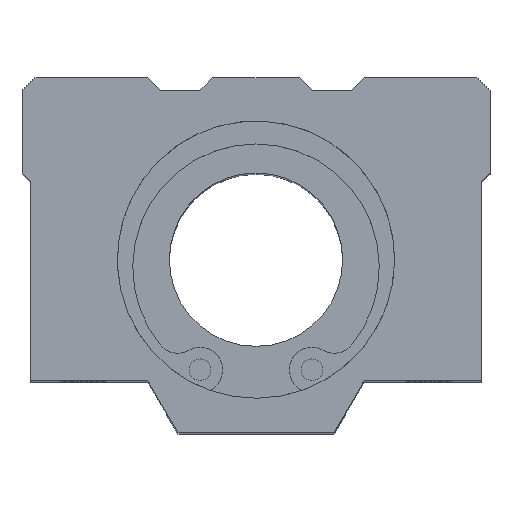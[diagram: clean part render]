
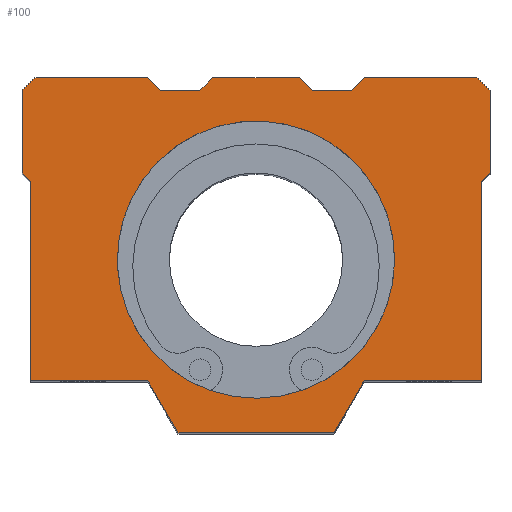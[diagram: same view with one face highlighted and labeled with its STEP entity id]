
A CAD part, top view. The second image highlights one B-rep face of the part: STEP entity #100.
In plain terms, the highlighted planar face has unit normal (0, 0, 1).
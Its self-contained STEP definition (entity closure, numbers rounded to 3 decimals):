
#100=ADVANCED_FACE('',(#205,#206),#207,.T.);
#205=FACE_OUTER_BOUND('',#366,.T.);
#206=FACE_BOUND('',#367,.T.);
#207=PLANE('',#368);
#366=EDGE_LOOP('',(#661,#662,#663,#664,#665,#666,#667,#668,#669,#670,#671,#672,#673,#674,#675,#676,#677,#678,#679,#680,#681,#682));
#367=EDGE_LOOP('',(#683));
#368=AXIS2_PLACEMENT_3D('',#684,#685,#686);
#661=ORIENTED_EDGE('',*,*,#1043,.T.);
#662=ORIENTED_EDGE('',*,*,#1044,.T.);
#663=ORIENTED_EDGE('',*,*,#1045,.T.);
#664=ORIENTED_EDGE('',*,*,#1046,.T.);
#665=ORIENTED_EDGE('',*,*,#1047,.T.);
#666=ORIENTED_EDGE('',*,*,#1048,.T.);
#667=ORIENTED_EDGE('',*,*,#1049,.T.);
#668=ORIENTED_EDGE('',*,*,#1050,.T.);
#669=ORIENTED_EDGE('',*,*,#1051,.T.);
#670=ORIENTED_EDGE('',*,*,#1052,.T.);
#671=ORIENTED_EDGE('',*,*,#1053,.T.);
#672=ORIENTED_EDGE('',*,*,#1054,.T.);
#673=ORIENTED_EDGE('',*,*,#1055,.T.);
#674=ORIENTED_EDGE('',*,*,#1056,.T.);
#675=ORIENTED_EDGE('',*,*,#1057,.T.);
#676=ORIENTED_EDGE('',*,*,#1058,.T.);
#677=ORIENTED_EDGE('',*,*,#1059,.T.);
#678=ORIENTED_EDGE('',*,*,#1060,.T.);
#679=ORIENTED_EDGE('',*,*,#1061,.T.);
#680=ORIENTED_EDGE('',*,*,#1062,.T.);
#681=ORIENTED_EDGE('',*,*,#1063,.T.);
#682=ORIENTED_EDGE('',*,*,#1064,.T.);
#683=ORIENTED_EDGE('',*,*,#1020,.T.);
#684=CARTESIAN_POINT('',(-19.0,27.5,48.0));
#685=DIRECTION('',(0.0,-0.0,1.0));
#686=DIRECTION('',(0.0,1.0,0.0));
#1020=EDGE_CURVE('',#1219,#1219,#1220,.F.);
#1043=EDGE_CURVE('',#1265,#1266,#1267,.T.);
#1044=EDGE_CURVE('',#1266,#1268,#1269,.T.);
#1045=EDGE_CURVE('',#1268,#1270,#1271,.T.);
#1046=EDGE_CURVE('',#1270,#1272,#1273,.T.);
#1047=EDGE_CURVE('',#1272,#1274,#1275,.T.);
#1048=EDGE_CURVE('',#1274,#1276,#1277,.T.);
#1049=EDGE_CURVE('',#1276,#1278,#1279,.T.);
#1050=EDGE_CURVE('',#1278,#1280,#1281,.T.);
#1051=EDGE_CURVE('',#1280,#1282,#1283,.T.);
#1052=EDGE_CURVE('',#1282,#1284,#1285,.T.);
#1053=EDGE_CURVE('',#1284,#1286,#1287,.T.);
#1054=EDGE_CURVE('',#1286,#1288,#1289,.T.);
#1055=EDGE_CURVE('',#1288,#1290,#1291,.T.);
#1056=EDGE_CURVE('',#1290,#1292,#1293,.T.);
#1057=EDGE_CURVE('',#1292,#1294,#1295,.T.);
#1058=EDGE_CURVE('',#1294,#1296,#1297,.T.);
#1059=EDGE_CURVE('',#1296,#1298,#1299,.T.);
#1060=EDGE_CURVE('',#1298,#1300,#1301,.T.);
#1061=EDGE_CURVE('',#1300,#1302,#1303,.T.);
#1062=EDGE_CURVE('',#1302,#1304,#1305,.T.);
#1063=EDGE_CURVE('',#1304,#1306,#1307,.T.);
#1064=EDGE_CURVE('',#1306,#1265,#1308,.T.);
#1219=VERTEX_POINT('',#1497);
#1220=CIRCLE('',#1498,16.0);
#1265=VERTEX_POINT('',#1565);
#1266=VERTEX_POINT('',#1566);
#1267=LINE('',#1567,#1568);
#1268=VERTEX_POINT('',#1569);
#1269=LINE('',#1570,#1571);
#1270=VERTEX_POINT('',#1572);
#1271=LINE('',#1573,#1574);
#1272=VERTEX_POINT('',#1575);
#1273=LINE('',#1576,#1577);
#1274=VERTEX_POINT('',#1578);
#1275=LINE('',#1579,#1580);
#1276=VERTEX_POINT('',#1581);
#1277=LINE('',#1582,#1583);
#1278=VERTEX_POINT('',#1584);
#1279=LINE('',#1585,#1586);
#1280=VERTEX_POINT('',#1587);
#1281=LINE('',#1588,#1589);
#1282=VERTEX_POINT('',#1590);
#1283=LINE('',#1591,#1592);
#1284=VERTEX_POINT('',#1593);
#1285=LINE('',#1594,#1595);
#1286=VERTEX_POINT('',#1596);
#1287=LINE('',#1597,#1598);
#1288=VERTEX_POINT('',#1599);
#1289=LINE('',#1600,#1601);
#1290=VERTEX_POINT('',#1602);
#1291=LINE('',#1603,#1604);
#1292=VERTEX_POINT('',#1605);
#1293=LINE('',#1606,#1607);
#1294=VERTEX_POINT('',#1608);
#1295=LINE('',#1609,#1610);
#1296=VERTEX_POINT('',#1611);
#1297=LINE('',#1612,#1613);
#1298=VERTEX_POINT('',#1614);
#1299=LINE('',#1615,#1616);
#1300=VERTEX_POINT('',#1617);
#1301=LINE('',#1618,#1619);
#1302=VERTEX_POINT('',#1620);
#1303=LINE('',#1621,#1622);
#1304=VERTEX_POINT('',#1623);
#1305=LINE('',#1624,#1625);
#1306=VERTEX_POINT('',#1626);
#1307=LINE('',#1627,#1628);
#1308=LINE('',#1629,#1630);
#1497=CARTESIAN_POINT('',(16.0,0.,48.0));
#1498=AXIS2_PLACEMENT_3D('',#1864,#1865,#1866);
#1565=CARTESIAN_POINT('',(-11.0,19.5,48.0));
#1566=CARTESIAN_POINT('',(-12.5,21.0,48.0));
#1567=CARTESIAN_POINT('',(-11.0,19.5,48.0));
#1568=VECTOR('',#1889,1.0);
#1569=CARTESIAN_POINT('',(-25.5,21.0,48.0));
#1570=CARTESIAN_POINT('',(-12.5,21.0,48.0));
#1571=VECTOR('',#1890,1.0);
#1572=CARTESIAN_POINT('',(-27.0,19.5,48.0));
#1573=CARTESIAN_POINT('',(-25.5,21.0,48.0));
#1574=VECTOR('',#1891,1.0);
#1575=CARTESIAN_POINT('',(-27.0,10.0,48.0));
#1576=CARTESIAN_POINT('',(-27.0,19.5,48.0));
#1577=VECTOR('',#1892,1.0);
#1578=CARTESIAN_POINT('',(-26.0,9.0,48.0));
#1579=CARTESIAN_POINT('',(-27.0,10.0,48.0));
#1580=VECTOR('',#1893,1.0);
#1581=CARTESIAN_POINT('',(-26.0,-14.0,48.0));
#1582=CARTESIAN_POINT('',(-26.0,9.0,48.0));
#1583=VECTOR('',#1894,1.0);
#1584=CARTESIAN_POINT('',(-12.464,-14.0,48.0));
#1585=CARTESIAN_POINT('',(-26.0,-14.0,48.0));
#1586=VECTOR('',#1895,1.0);
#1587=CARTESIAN_POINT('',(-9.,-20.0,48.0));
#1588=CARTESIAN_POINT('',(-12.464,-14.0,48.0));
#1589=VECTOR('',#1896,1.0);
#1590=CARTESIAN_POINT('',(9.,-20.0,48.0));
#1591=CARTESIAN_POINT('',(-9.,-20.0,48.0));
#1592=VECTOR('',#1897,1.0);
#1593=CARTESIAN_POINT('',(12.464,-14.0,48.0));
#1594=CARTESIAN_POINT('',(9.,-20.0,48.0));
#1595=VECTOR('',#1898,1.0);
#1596=CARTESIAN_POINT('',(26.0,-14.0,48.0));
#1597=CARTESIAN_POINT('',(12.464,-14.0,48.0));
#1598=VECTOR('',#1899,1.0);
#1599=CARTESIAN_POINT('',(26.0,9.0,48.0));
#1600=CARTESIAN_POINT('',(26.0,-14.0,48.0));
#1601=VECTOR('',#1900,1.0);
#1602=CARTESIAN_POINT('',(27.0,10.0,48.0));
#1603=CARTESIAN_POINT('',(26.0,9.0,48.0));
#1604=VECTOR('',#1901,1.0);
#1605=CARTESIAN_POINT('',(27.0,19.5,48.0));
#1606=CARTESIAN_POINT('',(27.0,10.0,48.0));
#1607=VECTOR('',#1902,1.0);
#1608=CARTESIAN_POINT('',(25.5,21.0,48.0));
#1609=CARTESIAN_POINT('',(27.0,19.5,48.0));
#1610=VECTOR('',#1903,1.0);
#1611=CARTESIAN_POINT('',(12.5,21.0,48.0));
#1612=CARTESIAN_POINT('',(25.5,21.0,48.0));
#1613=VECTOR('',#1904,1.0);
#1614=CARTESIAN_POINT('',(11.0,19.5,48.0));
#1615=CARTESIAN_POINT('',(12.5,21.0,48.0));
#1616=VECTOR('',#1905,1.0);
#1617=CARTESIAN_POINT('',(6.5,19.5,48.0));
#1618=CARTESIAN_POINT('',(11.0,19.5,48.0));
#1619=VECTOR('',#1906,1.0);
#1620=CARTESIAN_POINT('',(5.0,21.0,48.0));
#1621=CARTESIAN_POINT('',(6.5,19.5,48.0));
#1622=VECTOR('',#1907,1.0);
#1623=CARTESIAN_POINT('',(-5.0,21.0,48.0));
#1624=CARTESIAN_POINT('',(5.0,21.0,48.0));
#1625=VECTOR('',#1908,1.0);
#1626=CARTESIAN_POINT('',(-6.5,19.5,48.0));
#1627=CARTESIAN_POINT('',(-5.0,21.0,48.0));
#1628=VECTOR('',#1909,1.0);
#1629=CARTESIAN_POINT('',(-6.5,19.5,48.0));
#1630=VECTOR('',#1910,1.0);
#1864=CARTESIAN_POINT('',(0.,0.0,48.0));
#1865=DIRECTION('',(0.0,0.0,1.0));
#1866=DIRECTION('',(1.0,0.0,0.0));
#1889=DIRECTION('',(-0.707,0.707,0.0));
#1890=DIRECTION('',(-1.0,0.0,0.0));
#1891=DIRECTION('',(-0.707,-0.707,0.0));
#1892=DIRECTION('',(0.0,-1.0,0.0));
#1893=DIRECTION('',(0.707,-0.707,0.0));
#1894=DIRECTION('',(0.0,-1.0,0.0));
#1895=DIRECTION('',(1.0,0.0,0.0));
#1896=DIRECTION('',(0.5,-0.866,0.0));
#1897=DIRECTION('',(1.0,0.0,0.0));
#1898=DIRECTION('',(0.5,0.866,0.0));
#1899=DIRECTION('',(1.0,0.0,0.0));
#1900=DIRECTION('',(0.0,1.0,0.0));
#1901=DIRECTION('',(0.707,0.707,0.0));
#1902=DIRECTION('',(0.0,1.0,0.0));
#1903=DIRECTION('',(-0.707,0.707,0.0));
#1904=DIRECTION('',(-1.0,0.0,0.0));
#1905=DIRECTION('',(-0.707,-0.707,0.0));
#1906=DIRECTION('',(-1.0,0.0,0.0));
#1907=DIRECTION('',(-0.707,0.707,0.0));
#1908=DIRECTION('',(-1.0,0.0,0.0));
#1909=DIRECTION('',(-0.707,-0.707,0.0));
#1910=DIRECTION('',(-1.0,0.0,0.0));
